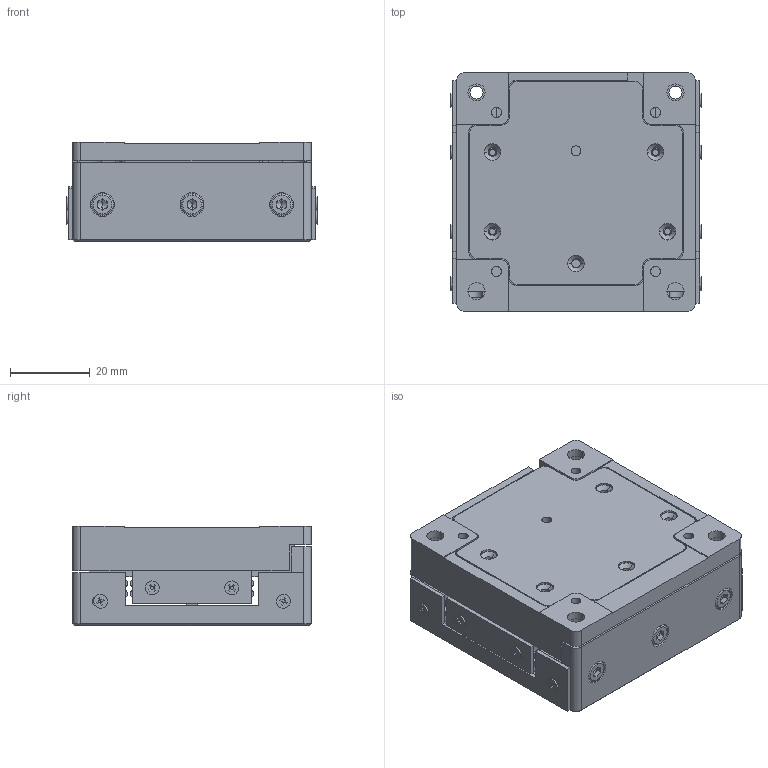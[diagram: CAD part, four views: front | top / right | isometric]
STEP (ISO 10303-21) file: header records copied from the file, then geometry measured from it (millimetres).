
FILE_DESCRIPTION (( 'STEP AP203' ), '1' );
FILE_NAME ('LS3-0618NM.STEP', '2023-04-26T05:57:36', ( '微软用户' ), ( '微软中国' ), 'SwSTEP 2.0', 'SolidWorks 2021', '' );
FILE_SCHEMA (( 'CONFIG_CONTROL_DESIGN' ));
Length unit declared in the file: millimetre
Products named in the file (1): LS3-0618NM
Bounding box: 62.9 x 60 x 25 mm (x, y, z)
Volume: 84963.4 mm3; surface area: 39105.8 mm2
Topology: 25 solids, 25 shells, 786 faces, 2042 edges, 1311 vertices
Faces by surface type: plane 400, cylinder 316, cone 60, torus 6, bspline 4
Entity records: 25248 total; most frequent: CARTESIAN_POINT 5455, DIRECTION 4189, ORIENTED_EDGE 4036, EDGE_CURVE 2018, AXIS2_PLACEMENT_3D 1455, VERTEX_POINT 1311, LINE 1279, VECTOR 1279
